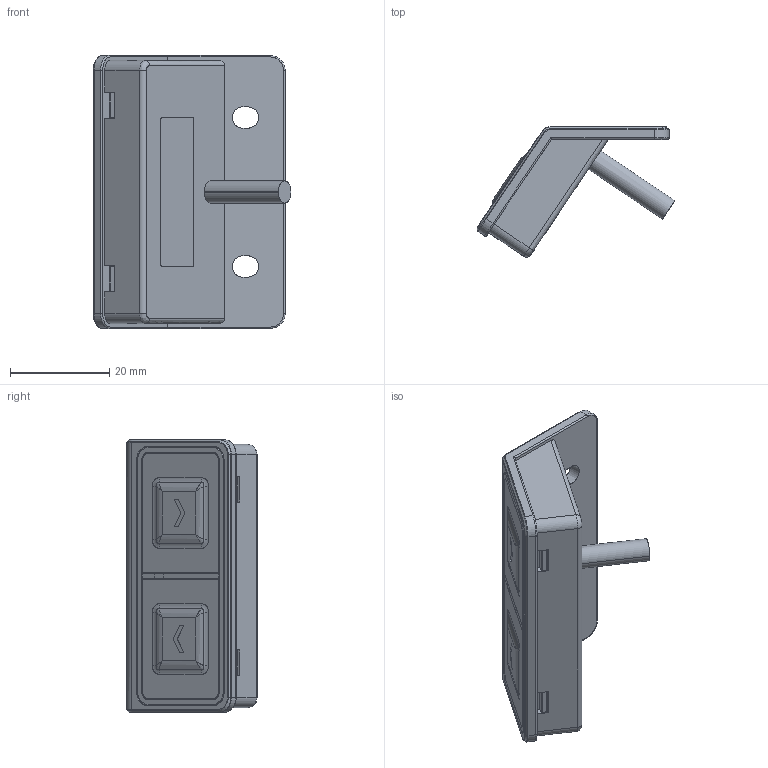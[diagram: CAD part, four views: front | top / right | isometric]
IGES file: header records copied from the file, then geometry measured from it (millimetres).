
Start section: SolidWorks IGES file using NURBS representation for surfaces
Global section: file name: C:\Users\lynn\Desktop\DP11.IGS; native system: SolidWorks 2015; preprocessor: SolidWorks 2015; author: lynn; date: 191114.145032; units: millimetre
Bounding box: 39.85 x 26.22 x 55 mm (x, y, z)
Surface area: 11725.4 mm2 (no closed solid volume)
Topology: 0 solids, 0 shells, 368 faces, 3161 edges, 3161 vertices
Faces by surface type: bspline 368
